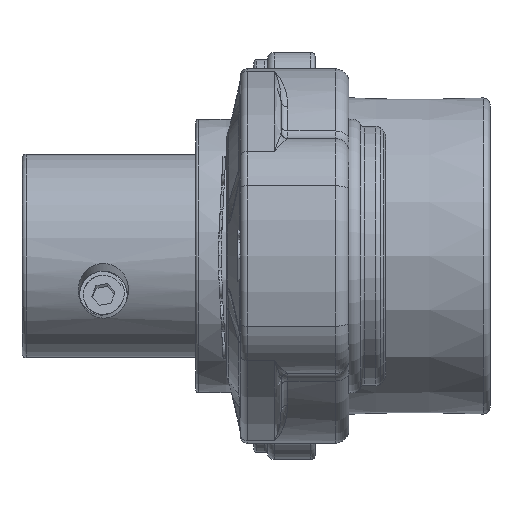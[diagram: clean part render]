
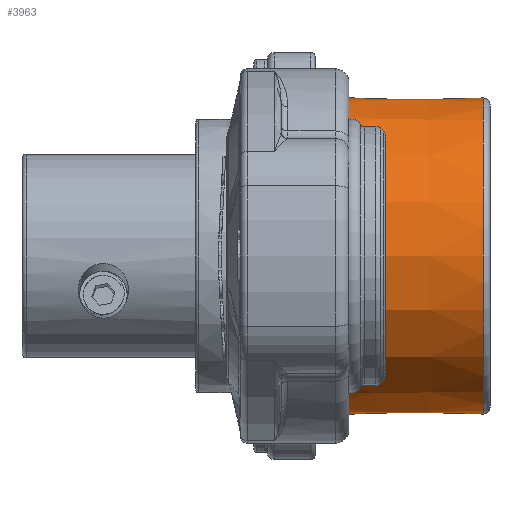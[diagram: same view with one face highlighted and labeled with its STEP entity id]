
A CAD part, front view. The second image highlights one B-rep face of the part: STEP entity #3963.
In plain terms, the highlighted conical face has half-angle 0.5 degrees and reference radius 11.65 mm.
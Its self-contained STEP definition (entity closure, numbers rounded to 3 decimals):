
#469 = CARTESIAN_POINT ( 'NONE',  ( -0.496, 8.733, 7.718 ) ) ;
#2088 = CARTESIAN_POINT ( 'NONE',  ( -12.404, 8.786, -7.814 ) ) ;
#3963 = ADVANCED_FACE ( 'NONE', ( #17465 ), #24886, .T. ) ;
#4195 = VERTEX_POINT ( 'NONE', #45421 ) ;
#4239 = CARTESIAN_POINT ( 'NONE',  ( -12.404, 8.786, 7.814 ) ) ;
#4555 = CIRCLE ( 'NONE', #54308, 11.654 ) ;
#5191 = VERTEX_POINT ( 'NONE', #469 ) ;
#5375 = CARTESIAN_POINT ( 'NONE',  ( -2.33, 8.741, 7.733 ) ) ;
#6402 = CIRCLE ( 'NONE', #42606, 11.758 ) ;
#8104 = CARTESIAN_POINT ( 'NONE',  ( 0., 0., 0. ) ) ;
#8308 = CARTESIAN_POINT ( 'NONE',  ( -0.496, 0., 0. ) ) ;
#8753 = CARTESIAN_POINT ( 'NONE',  ( -4.165, 8.749, 7.747 ) ) ;
#9517 = EDGE_CURVE ( 'NONE', #17418, #4195, #33230, .T. ) ;
#9607 = CARTESIAN_POINT ( 'NONE',  ( -0.496, 8.733, 7.718 ) ) ;
#11128 = CARTESIAN_POINT ( 'NONE',  ( -8.735, 8.77, -7.785 ) ) ;
#11995 = DIRECTION ( 'NONE',  ( 0., 0., -1. ) ) ;
#13001 = CARTESIAN_POINT ( 'NONE',  ( -12.404, 0., 0. ) ) ;
#14148 = CARTESIAN_POINT ( 'NONE',  ( -10.269, 8.776, 7.797 ) ) ;
#16845 = ORIENTED_EDGE ( 'NONE', *, *, #39987, .T. ) ;
#16955 = DIRECTION ( 'NONE',  ( 0., 0., 1. ) ) ;
#17418 = VERTEX_POINT ( 'NONE', #18408 ) ;
#17465 = FACE_OUTER_BOUND ( 'NONE', #22294, .T. ) ;
#17556 = B_SPLINE_CURVE_WITH_KNOTS ( 'NONE', 3,
 ( #9607, #5375, #8753, #48716, #43359, #14148, #4239 ),
 .UNSPECIFIED., .F., .F.,
 ( 4, 3, 4 ),
 ( 0., 0.006, 0.012 ),
 .UNSPECIFIED. ) ;
#18408 = CARTESIAN_POINT ( 'NONE',  ( -12.404, 8.786, -7.814 ) ) ;
#20885 = DIRECTION ( 'NONE',  ( -1., 0., 0. ) ) ;
#21088 = DIRECTION ( 'NONE',  ( -1., 0., 0. ) ) ;
#22294 = EDGE_LOOP ( 'NONE', ( #23222, #16845, #22676, #43021 ) ) ;
#22676 = ORIENTED_EDGE ( 'NONE', *, *, #9517, .T. ) ;
#23222 = ORIENTED_EDGE ( 'NONE', *, *, #43397, .T. ) ;
#24886 = CONICAL_SURFACE ( 'NONE', #35750, 11.65, 0.009 ) ;
#31843 = CARTESIAN_POINT ( 'NONE',  ( -2.631, 8.742, -7.735 ) ) ;
#32942 = CARTESIAN_POINT ( 'NONE',  ( -0.496, 8.733, -7.718 ) ) ;
#33230 = B_SPLINE_CURVE_WITH_KNOTS ( 'NONE', 3,
 ( #2088, #49963, #11128, #53383, #49396, #31843, #32942 ),
 .UNSPECIFIED., .F., .F.,
 ( 4, 3, 4 ),
 ( 0., 0.006, 0.012 ),
 .UNSPECIFIED. ) ;
#35024 = DIRECTION ( 'NONE',  ( 0., 0., 1. ) ) ;
#35096 = DIRECTION ( 'NONE',  ( 1., 0., 0. ) ) ;
#35750 = AXIS2_PLACEMENT_3D ( 'NONE', #8104, #20885, #35024 ) ;
#39543 = EDGE_CURVE ( 'NONE', #4195, #5191, #4555, .T. ) ;
#39987 = EDGE_CURVE ( 'NONE', #53127, #17418, #6402, .T. ) ;
#41848 = CARTESIAN_POINT ( 'NONE',  ( -12.404, 8.786, 7.814 ) ) ;
#42606 = AXIS2_PLACEMENT_3D ( 'NONE', #13001, #35096, #16955 ) ;
#43021 = ORIENTED_EDGE ( 'NONE', *, *, #39543, .T. ) ;
#43359 = CARTESIAN_POINT ( 'NONE',  ( -8.135, 8.767, 7.78 ) ) ;
#43397 = EDGE_CURVE ( 'NONE', #5191, #53127, #17556, .T. ) ;
#45421 = CARTESIAN_POINT ( 'NONE',  ( -0.496, 8.733, -7.718 ) ) ;
#48716 = CARTESIAN_POINT ( 'NONE',  ( -6., 8.757, 7.762 ) ) ;
#49396 = CARTESIAN_POINT ( 'NONE',  ( -4.765, 8.752, -7.752 ) ) ;
#49963 = CARTESIAN_POINT ( 'NONE',  ( -10.57, 8.778, -7.8 ) ) ;
#53127 = VERTEX_POINT ( 'NONE', #41848 ) ;
#53383 = CARTESIAN_POINT ( 'NONE',  ( -6.9, 8.761, -7.77 ) ) ;
#54308 = AXIS2_PLACEMENT_3D ( 'NONE', #8308, #21088, #11995 ) ;
